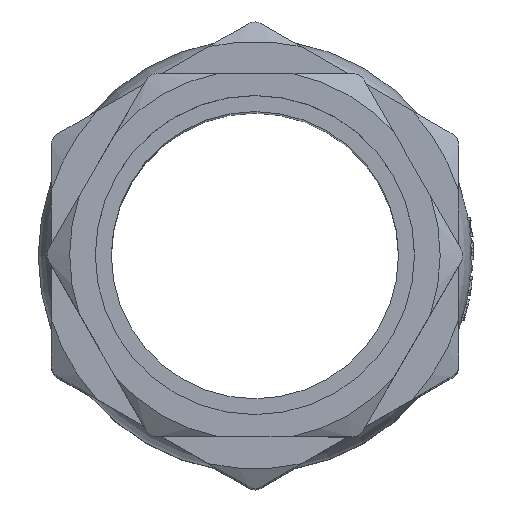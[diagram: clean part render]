
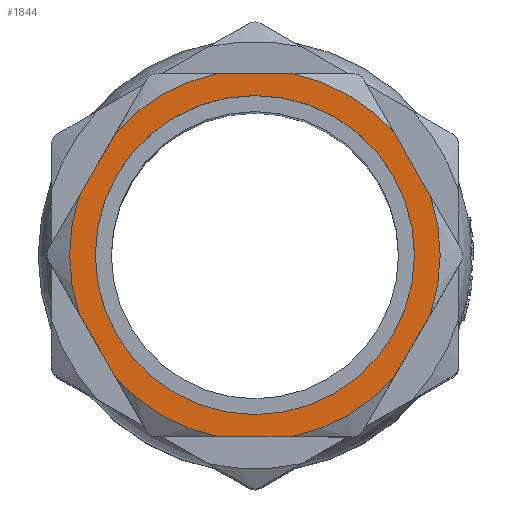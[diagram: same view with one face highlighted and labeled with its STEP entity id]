
A CAD part, top view. The second image highlights one B-rep face of the part: STEP entity #1844.
In plain terms, the highlighted planar face has unit normal (0, 0, 1).
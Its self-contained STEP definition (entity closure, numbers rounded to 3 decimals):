
#1844=ADVANCED_FACE('',(#4711,#4713),#4715,.T.);
#4711=FACE_BOUND('',#4712,.T.);
#4712=EDGE_LOOP('',(#6053,#6054,#6055,#6056,#6057,#6058,#6059,#6060,#6061,#6062,
#6063,#6064));
#4713=FACE_BOUND('',#4714,.T.);
#4714=EDGE_LOOP('',(#6065));
#4715=PLANE('',#4716);
#4716=AXIS2_PLACEMENT_3D('',#4717,#4718,#4719);
#4717=CARTESIAN_POINT('',(0.,36.113,125.));
#4718=DIRECTION('',(0.,0.,1.));
#4719=DIRECTION('',(1.,0.,0.));
#6053=ORIENTED_EDGE('',*,*,#6811,.T.);
#6054=ORIENTED_EDGE('',*,*,#6757,.T.);
#6055=ORIENTED_EDGE('',*,*,#6810,.T.);
#6056=ORIENTED_EDGE('',*,*,#6745,.T.);
#6057=ORIENTED_EDGE('',*,*,#6751,.T.);
#6058=ORIENTED_EDGE('',*,*,#6720,.T.);
#6059=ORIENTED_EDGE('',*,*,#6727,.T.);
#6060=ORIENTED_EDGE('',*,*,#6819,.T.);
#6061=ORIENTED_EDGE('',*,*,#6733,.T.);
#6062=ORIENTED_EDGE('',*,*,#6740,.T.);
#6063=ORIENTED_EDGE('',*,*,#6770,.T.);
#6064=ORIENTED_EDGE('',*,*,#6820,.T.);
#6065=ORIENTED_EDGE('',*,*,#6821,.F.);
#6720=EDGE_CURVE('',#7689,#7687,#7690,.T.);
#6727=EDGE_CURVE('',#7687,#7699,#7701,.T.);
#6733=EDGE_CURVE('',#7712,#7710,#7713,.T.);
#6740=EDGE_CURVE('',#7710,#7721,#7723,.T.);
#6745=EDGE_CURVE('',#7731,#7729,#7732,.T.);
#6751=EDGE_CURVE('',#7729,#7689,#7740,.T.);
#6757=EDGE_CURVE('',#7749,#7747,#7750,.T.);
#6770=EDGE_CURVE('',#7721,#7768,#7770,.T.);
#6810=EDGE_CURVE('',#7747,#7731,#7819,.T.);
#6811=EDGE_CURVE('',#7820,#7749,#7821,.T.);
#6819=EDGE_CURVE('',#7699,#7712,#7830,.T.);
#6820=EDGE_CURVE('',#7768,#7820,#7831,.T.);
#6821=EDGE_CURVE('',#7832,#7832,#7833,.T.);
#7687=VERTEX_POINT('',#17345);
#7689=VERTEX_POINT('',#17357);
#7690=LINE('',#17358,#17359);
#7699=VERTEX_POINT('',#17396);
#7701=CIRCLE('',#17417,41.939);
#7710=VERTEX_POINT('',#17510);
#7712=VERTEX_POINT('',#17531);
#7713=CIRCLE('',#17532,41.939);
#7721=VERTEX_POINT('',#17561);
#7723=LINE('',#17573,#17574);
#7729=VERTEX_POINT('',#17659);
#7731=VERTEX_POINT('',#17671);
#7732=LINE('',#17672,#17673);
#7740=CIRCLE('',#17709,41.939);
#7747=VERTEX_POINT('',#17800);
#7749=VERTEX_POINT('',#17812);
#7750=LINE('',#17813,#17814);
#7768=VERTEX_POINT('',#18017);
#7770=CIRCLE('',#18038,41.939);
#7819=CIRCLE('',#18234,41.939);
#7820=VERTEX_POINT('',#18238);
#7821=CIRCLE('',#18239,41.939);
#7830=LINE('',#18273,#18274);
#7831=LINE('',#18276,#18277);
#7832=VERTEX_POINT('',#18279);
#7833=CIRCLE('',#18280,36.113);
#17345=CARTESIAN_POINT('',(8.181,-41.134,125.));
#17357=CARTESIAN_POINT('',(-8.388,-41.092,125.));
#17358=CARTESIAN_POINT('',(-8.388,-41.092,125.));
#17359=VECTOR('',#17360,1.);
#17360=DIRECTION('',(1.,-0.003,0.));
#17396=CARTESIAN_POINT('',(31.393,-27.81,125.));
#17417=AXIS2_PLACEMENT_3D('',#17418,#17419,#17420);
#17418=CARTESIAN_POINT('',(0.,0.,125.));
#17419=DIRECTION('',(0.,0.,1.));
#17420=DIRECTION('',(0.195,-0.981,0.));
#17510=CARTESIAN_POINT('',(39.781,13.282,125.));
#17531=CARTESIAN_POINT('',(39.713,-13.482,125.));
#17532=AXIS2_PLACEMENT_3D('',#17533,#17534,#17535);
#17533=CARTESIAN_POINT('',(0.,0.,125.));
#17534=DIRECTION('',(0.,0.,1.));
#17535=DIRECTION('',(0.947,-0.321,0.));
#17561=CARTESIAN_POINT('',(31.532,27.652,125.));
#17573=CARTESIAN_POINT('',(39.781,13.282,125.));
#17574=VECTOR('',#17575,1.);
#17575=DIRECTION('',(-0.498,0.867,0.));
#17659=CARTESIAN_POINT('',(-31.532,-27.652,125.));
#17671=CARTESIAN_POINT('',(-39.781,-13.282,125.));
#17672=CARTESIAN_POINT('',(-39.781,-13.282,125.));
#17673=VECTOR('',#17674,1.);
#17674=DIRECTION('',(0.498,-0.867,0.));
#17709=AXIS2_PLACEMENT_3D('',#17710,#17711,#17712);
#17710=CARTESIAN_POINT('',(0.,0.,125.));
#17711=DIRECTION('',(0.,0.,1.));
#17712=DIRECTION('',(-0.752,-0.659,0.));
#17800=CARTESIAN_POINT('',(-39.713,13.482,125.));
#17812=CARTESIAN_POINT('',(-31.393,27.81,125.));
#17813=CARTESIAN_POINT('',(-31.393,27.81,125.));
#17814=VECTOR('',#17815,1.);
#17815=DIRECTION('',(-0.502,-0.865,0.));
#18017=CARTESIAN_POINT('',(8.388,41.092,125.));
#18038=AXIS2_PLACEMENT_3D('',#18039,#18040,#18041);
#18039=CARTESIAN_POINT('',(0.,0.,125.));
#18040=DIRECTION('',(0.,0.,1.));
#18041=DIRECTION('',(0.752,0.659,0.));
#18234=AXIS2_PLACEMENT_3D('',#18235,#18236,#18237);
#18235=CARTESIAN_POINT('',(0.,0.,125.));
#18236=DIRECTION('',(0.,0.,1.));
#18237=DIRECTION('',(-0.947,0.321,0.));
#18238=CARTESIAN_POINT('',(-8.181,41.134,125.));
#18239=AXIS2_PLACEMENT_3D('',#18240,#18241,#18242);
#18240=CARTESIAN_POINT('',(0.,0.,125.));
#18241=DIRECTION('',(0.,0.,1.));
#18242=DIRECTION('',(-0.195,0.981,0.));
#18273=CARTESIAN_POINT('',(31.393,-27.81,125.));
#18274=VECTOR('',#18275,1.);
#18275=DIRECTION('',(0.502,0.865,0.));
#18276=CARTESIAN_POINT('',(8.388,41.092,125.));
#18277=VECTOR('',#18278,1.);
#18278=DIRECTION('',(-1.,0.003,0.));
#18279=CARTESIAN_POINT('',(0.,-36.113,125.));
#18280=AXIS2_PLACEMENT_3D('',#18281,#18282,#18283);
#18281=CARTESIAN_POINT('',(0.,0.,125.));
#18282=DIRECTION('',(0.,0.,1.));
#18283=DIRECTION('',(0.,-1.,0.));
